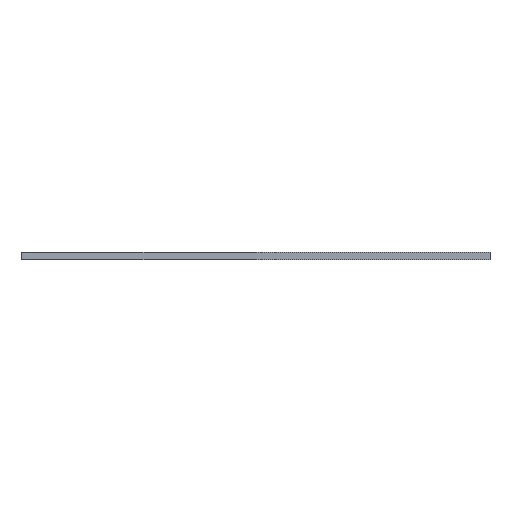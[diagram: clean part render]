
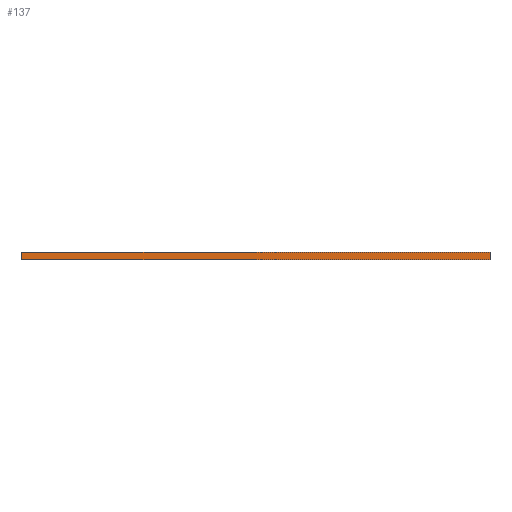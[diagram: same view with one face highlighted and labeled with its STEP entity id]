
A CAD part, front view. The second image highlights one B-rep face of the part: STEP entity #137.
In plain terms, the highlighted planar face has unit normal (0, -1, 0).
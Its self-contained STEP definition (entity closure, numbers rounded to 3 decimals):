
#21 = EDGE_CURVE('',#22,#24,#26,.T.);
#22 = VERTEX_POINT('',#23);
#23 = CARTESIAN_POINT('',(-125.,-150.,0.));
#24 = VERTEX_POINT('',#25);
#25 = CARTESIAN_POINT('',(-125.,-150.,4.));
#26 = SURFACE_CURVE('',#27,(#31,#43),.PCURVE_S1.);
#27 = LINE('',#28,#29);
#28 = CARTESIAN_POINT('',(-125.,-150.,0.));
#29 = VECTOR('',#30,1.);
#30 = DIRECTION('',(0.,0.,1.));
#31 = PCURVE('',#32,#37);
#32 = PLANE('',#33);
#33 = AXIS2_PLACEMENT_3D('',#34,#35,#36);
#34 = CARTESIAN_POINT('',(-125.,-150.,0.));
#35 = DIRECTION('',(1.,0.,0.));
#36 = DIRECTION('',(0.,0.,1.));
#37 = DEFINITIONAL_REPRESENTATION('',(#38),#42);
#38 = LINE('',#39,#40);
#39 = CARTESIAN_POINT('',(0.,0.));
#40 = VECTOR('',#41,1.);
#41 = DIRECTION('',(1.,0.));
#42 = ( GEOMETRIC_REPRESENTATION_CONTEXT(2) 
PARAMETRIC_REPRESENTATION_CONTEXT() REPRESENTATION_CONTEXT('2D SPACE',''
  ) );
#43 = PCURVE('',#44,#49);
#44 = PLANE('',#45);
#45 = AXIS2_PLACEMENT_3D('',#46,#47,#48);
#46 = CARTESIAN_POINT('',(-125.,-150.,0.));
#47 = DIRECTION('',(0.,1.,0.));
#48 = DIRECTION('',(0.,0.,1.));
#49 = DEFINITIONAL_REPRESENTATION('',(#50),#54);
#50 = LINE('',#51,#52);
#51 = CARTESIAN_POINT('',(0.,0.));
#52 = VECTOR('',#53,1.);
#53 = DIRECTION('',(1.,0.));
#54 = ( GEOMETRIC_REPRESENTATION_CONTEXT(2) 
PARAMETRIC_REPRESENTATION_CONTEXT() REPRESENTATION_CONTEXT('2D SPACE',''
  ) );
#72 = PLANE('',#73);
#73 = AXIS2_PLACEMENT_3D('',#74,#75,#76);
#74 = CARTESIAN_POINT('',(-125.,-150.,0.));
#75 = DIRECTION('',(0.,0.,1.));
#76 = DIRECTION('',(1.,0.,0.));
#126 = PLANE('',#127);
#127 = AXIS2_PLACEMENT_3D('',#128,#129,#130);
#128 = CARTESIAN_POINT('',(-125.,-150.,4.));
#129 = DIRECTION('',(0.,0.,1.));
#130 = DIRECTION('',(1.,0.,0.));
#137 = ADVANCED_FACE('',(#138),#44,.F.);
#138 = FACE_BOUND('',#139,.F.);
#139 = EDGE_LOOP('',(#140,#163,#164,#187));
#140 = ORIENTED_EDGE('',*,*,#141,.F.);
#141 = EDGE_CURVE('',#22,#142,#144,.T.);
#142 = VERTEX_POINT('',#143);
#143 = CARTESIAN_POINT('',(125.,-150.,0.));
#144 = SURFACE_CURVE('',#145,(#149,#156),.PCURVE_S1.);
#145 = LINE('',#146,#147);
#146 = CARTESIAN_POINT('',(-125.,-150.,0.));
#147 = VECTOR('',#148,1.);
#148 = DIRECTION('',(1.,0.,0.));
#149 = PCURVE('',#44,#150);
#150 = DEFINITIONAL_REPRESENTATION('',(#151),#155);
#151 = LINE('',#152,#153);
#152 = CARTESIAN_POINT('',(0.,0.));
#153 = VECTOR('',#154,1.);
#154 = DIRECTION('',(0.,1.));
#155 = ( GEOMETRIC_REPRESENTATION_CONTEXT(2) 
PARAMETRIC_REPRESENTATION_CONTEXT() REPRESENTATION_CONTEXT('2D SPACE',''
  ) );
#156 = PCURVE('',#72,#157);
#157 = DEFINITIONAL_REPRESENTATION('',(#158),#162);
#158 = LINE('',#159,#160);
#159 = CARTESIAN_POINT('',(0.,0.));
#160 = VECTOR('',#161,1.);
#161 = DIRECTION('',(1.,0.));
#162 = ( GEOMETRIC_REPRESENTATION_CONTEXT(2) 
PARAMETRIC_REPRESENTATION_CONTEXT() REPRESENTATION_CONTEXT('2D SPACE',''
  ) );
#163 = ORIENTED_EDGE('',*,*,#21,.T.);
#164 = ORIENTED_EDGE('',*,*,#165,.T.);
#165 = EDGE_CURVE('',#24,#166,#168,.T.);
#166 = VERTEX_POINT('',#167);
#167 = CARTESIAN_POINT('',(125.,-150.,4.));
#168 = SURFACE_CURVE('',#169,(#173,#180),.PCURVE_S1.);
#169 = LINE('',#170,#171);
#170 = CARTESIAN_POINT('',(-125.,-150.,4.));
#171 = VECTOR('',#172,1.);
#172 = DIRECTION('',(1.,0.,0.));
#173 = PCURVE('',#44,#174);
#174 = DEFINITIONAL_REPRESENTATION('',(#175),#179);
#175 = LINE('',#176,#177);
#176 = CARTESIAN_POINT('',(4.,0.));
#177 = VECTOR('',#178,1.);
#178 = DIRECTION('',(0.,1.));
#179 = ( GEOMETRIC_REPRESENTATION_CONTEXT(2) 
PARAMETRIC_REPRESENTATION_CONTEXT() REPRESENTATION_CONTEXT('2D SPACE',''
  ) );
#180 = PCURVE('',#126,#181);
#181 = DEFINITIONAL_REPRESENTATION('',(#182),#186);
#182 = LINE('',#183,#184);
#183 = CARTESIAN_POINT('',(0.,0.));
#184 = VECTOR('',#185,1.);
#185 = DIRECTION('',(1.,0.));
#186 = ( GEOMETRIC_REPRESENTATION_CONTEXT(2) 
PARAMETRIC_REPRESENTATION_CONTEXT() REPRESENTATION_CONTEXT('2D SPACE',''
  ) );
#187 = ORIENTED_EDGE('',*,*,#188,.F.);
#188 = EDGE_CURVE('',#142,#166,#189,.T.);
#189 = SURFACE_CURVE('',#190,(#194,#201),.PCURVE_S1.);
#190 = LINE('',#191,#192);
#191 = CARTESIAN_POINT('',(125.,-150.,0.));
#192 = VECTOR('',#193,1.);
#193 = DIRECTION('',(0.,0.,1.));
#194 = PCURVE('',#44,#195);
#195 = DEFINITIONAL_REPRESENTATION('',(#196),#200);
#196 = LINE('',#197,#198);
#197 = CARTESIAN_POINT('',(0.,250.));
#198 = VECTOR('',#199,1.);
#199 = DIRECTION('',(1.,0.));
#200 = ( GEOMETRIC_REPRESENTATION_CONTEXT(2) 
PARAMETRIC_REPRESENTATION_CONTEXT() REPRESENTATION_CONTEXT('2D SPACE',''
  ) );
#201 = PCURVE('',#202,#207);
#202 = PLANE('',#203);
#203 = AXIS2_PLACEMENT_3D('',#204,#205,#206);
#204 = CARTESIAN_POINT('',(125.,-150.,0.));
#205 = DIRECTION('',(1.,0.,0.));
#206 = DIRECTION('',(0.,0.,1.));
#207 = DEFINITIONAL_REPRESENTATION('',(#208),#212);
#208 = LINE('',#209,#210);
#209 = CARTESIAN_POINT('',(0.,0.));
#210 = VECTOR('',#211,1.);
#211 = DIRECTION('',(1.,0.));
#212 = ( GEOMETRIC_REPRESENTATION_CONTEXT(2) 
PARAMETRIC_REPRESENTATION_CONTEXT() REPRESENTATION_CONTEXT('2D SPACE',''
  ) );
